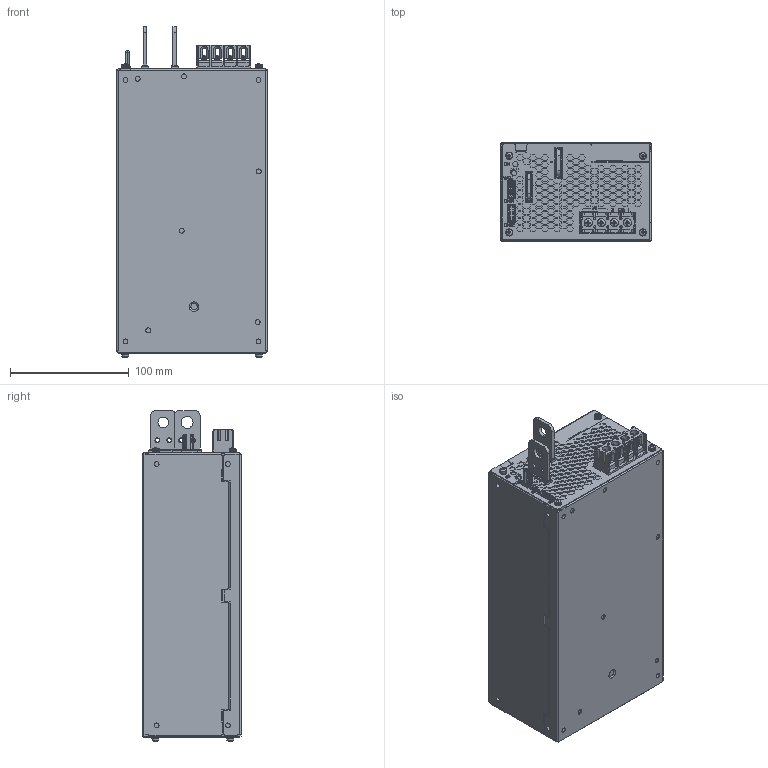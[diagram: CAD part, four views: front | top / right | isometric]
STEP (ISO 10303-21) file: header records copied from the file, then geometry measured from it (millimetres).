
FILE_DESCRIPTION (( 'STEP AP214' ), '1' );
FILE_NAME ('hws1000_outline.STEP', '2010-06-21T02:19:56', ( 'nag_spsrd_cad08' ), ( 'TDK-Lambda' ), 'SwSTEP 2.0', 'SolidWorks 2010', '' );
FILE_SCHEMA (( 'AUTOMOTIVE_DESIGN' ));
Length unit declared in the file: millimetre
Products named in the file (1): hws1000_outline
Bounding box: 126.5 x 82.5 x 278.55 mm (x, y, z)
Volume: 2506479.8 mm3; surface area: 147606.4 mm2
Topology: 1 solids, 1 shells, 4957 faces, 13041 edges, 8527 vertices
Faces by surface type: plane 4053, cylinder 605, cone 159, torus 127, sphere 13
Entity records: 207035 total; most frequent: CARTESIAN_POINT 28511, ORIENTED_EDGE 26030, DIRECTION 24643, EDGE_CURVE 13015, VECTOR 10877, LINE 10877, VERTEX_POINT 8527, AXIS2_PLACEMENT_3D 6883
